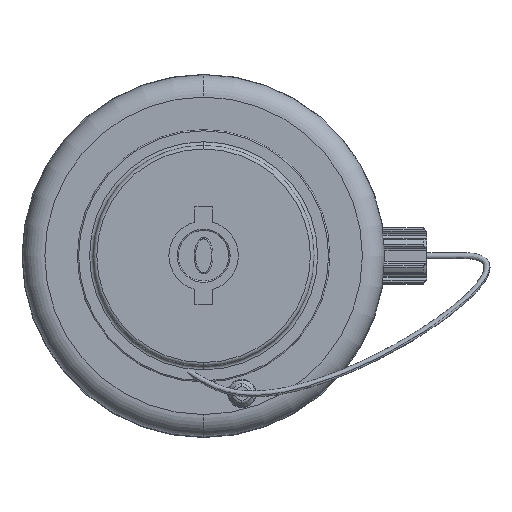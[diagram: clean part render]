
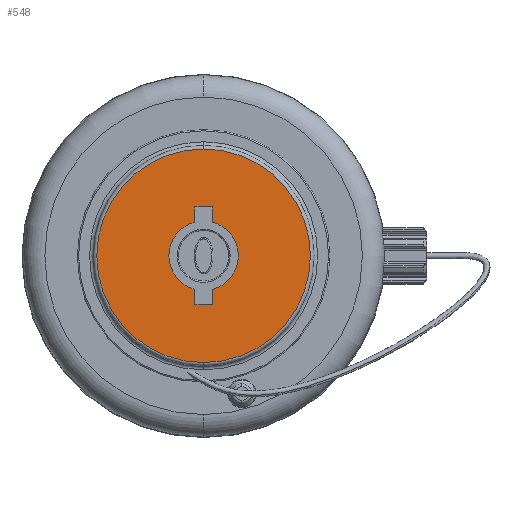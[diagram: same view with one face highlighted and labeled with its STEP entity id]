
A CAD part, top view. The second image highlights one B-rep face of the part: STEP entity #548.
In plain terms, the highlighted planar face has unit normal (0, 0, 1).
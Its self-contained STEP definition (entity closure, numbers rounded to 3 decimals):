
#548=ADVANCED_FACE('',(#1070,#1071),#1072,.T.);
#1070=FACE_BOUND('',#3381,.T.);
#1071=FACE_OUTER_BOUND('',#3382,.T.);
#1072=PLANE('',#3383);
#3381=EDGE_LOOP('',(#5058,#5059));
#3382=EDGE_LOOP('',(#5060,#5061,#5062));
#3383=AXIS2_PLACEMENT_3D('',#5063,#5064,#5065);
#5058=ORIENTED_EDGE('',*,*,#5592,.T.);
#5059=ORIENTED_EDGE('',*,*,#5683,.T.);
#5060=ORIENTED_EDGE('',*,*,#5709,.F.);
#5061=ORIENTED_EDGE('',*,*,#5708,.F.);
#5062=ORIENTED_EDGE('',*,*,#5716,.F.);
#5063=CARTESIAN_POINT('',(439.493,128.909,99.471));
#5064=DIRECTION('',(0.0,0.,1.0));
#5065=DIRECTION('',(-1.0,0.0,-0.0));
#5592=EDGE_CURVE('',#6451,#6453,#6455,.T.);
#5683=EDGE_CURVE('',#6453,#6451,#6565,.T.);
#5708=EDGE_CURVE('',#6590,#6592,#6593,.T.);
#5709=EDGE_CURVE('',#6592,#6594,#6595,.T.);
#5716=EDGE_CURVE('',#6594,#6590,#6602,.T.);
#6451=VERTEX_POINT('',#8182);
#6453=VERTEX_POINT('',#8185);
#6455=CIRCLE('',#8188,20.921);
#6565=CIRCLE('',#8653,20.921);
#6590=VERTEX_POINT('',#8727);
#6592=VERTEX_POINT('',#8729);
#6593=CIRCLE('',#8730,88.21);
#6594=VERTEX_POINT('',#8731);
#6595=CIRCLE('',#8732,88.21);
#6602=CIRCLE('',#8739,88.21);
#8182=CARTESIAN_POINT('',(506.019,128.909,99.471));
#8185=CARTESIAN_POINT('',(464.178,128.909,99.471));
#8188=AXIS2_PLACEMENT_3D('',#9662,#9663,#9664);
#8653=AXIS2_PLACEMENT_3D('',#9758,#9759,#9760);
#8727=CARTESIAN_POINT('',(485.098,40.699,99.471));
#8729=CARTESIAN_POINT('',(396.888,128.909,99.471));
#8730=AXIS2_PLACEMENT_3D('',#9781,#9782,#9783);
#8731=CARTESIAN_POINT('',(485.098,217.119,99.471));
#8732=AXIS2_PLACEMENT_3D('',#9784,#9785,#9786);
#8739=AXIS2_PLACEMENT_3D('',#9796,#9797,#9798);
#9662=CARTESIAN_POINT('',(485.098,128.909,99.471));
#9663=DIRECTION('',(0.0,0.,-1.0));
#9664=DIRECTION('',(1.0,0.0,0.0));
#9758=CARTESIAN_POINT('',(485.098,128.909,99.471));
#9759=DIRECTION('',(0.0,0.,-1.0));
#9760=DIRECTION('',(1.0,0.0,0.0));
#9781=CARTESIAN_POINT('',(485.098,128.909,99.471));
#9782=DIRECTION('',(0.0,0.,-1.0));
#9783=DIRECTION('',(1.0,0.,0.));
#9784=CARTESIAN_POINT('',(485.098,128.909,99.471));
#9785=DIRECTION('',(0.0,0.,-1.0));
#9786=DIRECTION('',(1.0,0.,0.));
#9796=CARTESIAN_POINT('',(485.098,128.909,99.471));
#9797=DIRECTION('',(0.0,0.,-1.0));
#9798=DIRECTION('',(1.0,0.,0.));
